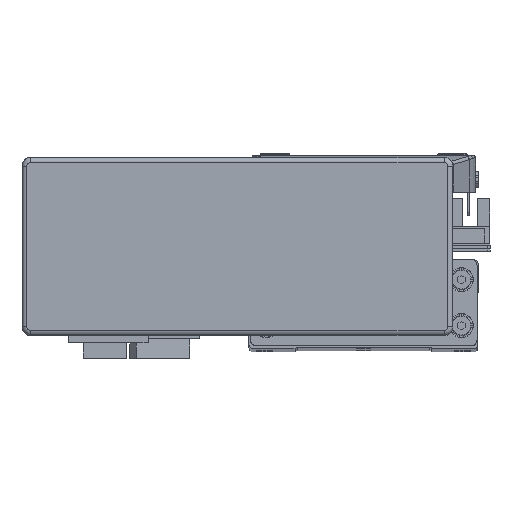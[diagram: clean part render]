
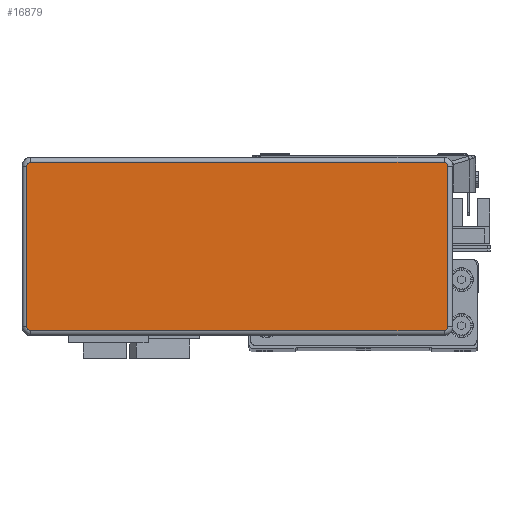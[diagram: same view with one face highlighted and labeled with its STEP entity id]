
A CAD part, top view. The second image highlights one B-rep face of the part: STEP entity #16879.
In plain terms, the highlighted planar face has unit normal (0, 0, 1) as drawn and (0, 0, -1) by its records, which use the part's own axes.
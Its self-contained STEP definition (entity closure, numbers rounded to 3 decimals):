
#1605 = VERTEX_POINT ( 'NONE', #14653 ) ;
#1614 = VERTEX_POINT ( 'NONE', #14632 ) ;
#1646 = VERTEX_POINT ( 'NONE', #14595 ) ;
#1670 = VERTEX_POINT ( 'NONE', #14734 ) ;
#1686 = VERTEX_POINT ( 'NONE', #14765 ) ;
#1688 = VERTEX_POINT ( 'NONE', #14767 ) ;
#1690 = VERTEX_POINT ( 'NONE', #14700 ) ;
#1694 = VERTEX_POINT ( 'NONE', #14695 ) ;
#3235 = AXIS2_PLACEMENT_3D ( 'NONE', #42827, #42798, #42829 ) ;
#3246 = AXIS2_PLACEMENT_3D ( 'NONE', #42979, #42986, #42981 ) ;
#3276 = AXIS2_PLACEMENT_3D ( 'NONE', #42933, #42837, #42878 ) ;
#3289 = AXIS2_PLACEMENT_3D ( 'NONE', #42750, #42747, #42755 ) ;
#12038 = CARTESIAN_POINT ( 'NONE',  ( 71.995, -27.995, -32.2 ) ) ;
#12060 = PLANE ( 'NONE',  #15995 ) ;
#12102 = DIRECTION ( 'NONE',  ( 1., 0., 0. ) ) ;
#12117 = DIRECTION ( 'NONE',  ( 0., 0., 1. ) ) ;
#12898 = ORIENTED_EDGE ( 'NONE', *, *, #28086, .T. ) ;
#12928 = ORIENTED_EDGE ( 'NONE', *, *, #28030, .T. ) ;
#12942 = ORIENTED_EDGE ( 'NONE', *, *, #28006, .T. ) ;
#12944 = ORIENTED_EDGE ( 'NONE', *, *, #28040, .T. ) ;
#12950 = ORIENTED_EDGE ( 'NONE', *, *, #28049, .T. ) ;
#12956 = ORIENTED_EDGE ( 'NONE', *, *, #28020, .T. ) ;
#12974 = ORIENTED_EDGE ( 'NONE', *, *, #28001, .T. ) ;
#12980 = ORIENTED_EDGE ( 'NONE', *, *, #27998, .T. ) ;
#14595 = CARTESIAN_POINT ( 'NONE',  ( -73.295, 27.995, -32.2 ) ) ;
#14632 = CARTESIAN_POINT ( 'NONE',  ( -71.995, -29.295, -32.2 ) ) ;
#14653 = CARTESIAN_POINT ( 'NONE',  ( 73.295, -27.995, -32.2 ) ) ;
#14695 = CARTESIAN_POINT ( 'NONE',  ( 71.995, 29.295, -32.2 ) ) ;
#14700 = CARTESIAN_POINT ( 'NONE',  ( 71.995, -29.295, -32.2 ) ) ;
#14734 = CARTESIAN_POINT ( 'NONE',  ( 73.295, 27.995, -32.2 ) ) ;
#14765 = CARTESIAN_POINT ( 'NONE',  ( -73.295, -27.995, -32.2 ) ) ;
#14767 = CARTESIAN_POINT ( 'NONE',  ( -71.995, 29.295, -32.2 ) ) ;
#15995 = AXIS2_PLACEMENT_3D ( 'NONE', #12038, #12117, #12102 ) ;
#16879 = ADVANCED_FACE ( 'NONE', ( #20303 ), #12060, .F. ) ;
#20303 = FACE_OUTER_BOUND ( 'NONE', #44654, .T. ) ;
#27998 = EDGE_CURVE ( 'NONE', #1614, #1686, #32426, .T. ) ;
#28001 = EDGE_CURVE ( 'NONE', #1690, #1614, #32410, .T. ) ;
#28006 = EDGE_CURVE ( 'NONE', #1694, #1670, #32420, .T. ) ;
#28020 = EDGE_CURVE ( 'NONE', #1646, #1688, #32402, .T. ) ;
#28030 = EDGE_CURVE ( 'NONE', #1688, #1694, #32454, .T. ) ;
#28040 = EDGE_CURVE ( 'NONE', #1605, #1690, #32512, .T. ) ;
#28049 = EDGE_CURVE ( 'NONE', #1670, #1605, #32509, .T. ) ;
#28086 = EDGE_CURVE ( 'NONE', #1686, #1646, #32541, .T. ) ;
#32402 = CIRCLE ( 'NONE', #3276, 1.3 ) ;
#32410 = LINE ( 'NONE', #42730, #32442 ) ;
#32420 = CIRCLE ( 'NONE', #3235, 1.3 ) ;
#32426 = CIRCLE ( 'NONE', #3289, 1.3 ) ;
#32442 = VECTOR ( 'NONE', #42787, 1000. ) ;
#32454 = LINE ( 'NONE', #42886, #32480 ) ;
#32480 = VECTOR ( 'NONE', #42873, 1000. ) ;
#32493 = VECTOR ( 'NONE', #43087, 1000. ) ;
#32509 = LINE ( 'NONE', #43062, #32493 ) ;
#32512 = CIRCLE ( 'NONE', #3246, 1.3 ) ;
#32538 = VECTOR ( 'NONE', #43314, 1000. ) ;
#32541 = LINE ( 'NONE', #43336, #32538 ) ;
#42730 = CARTESIAN_POINT ( 'NONE',  ( 71.995, -29.295, -32.2 ) ) ;
#42747 = DIRECTION ( 'NONE',  ( 0., 0., -1. ) ) ;
#42750 = CARTESIAN_POINT ( 'NONE',  ( -71.995, -27.995, -32.2 ) ) ;
#42755 = DIRECTION ( 'NONE',  ( 1., 0., 0. ) ) ;
#42787 = DIRECTION ( 'NONE',  ( -1., 0., 0. ) ) ;
#42798 = DIRECTION ( 'NONE',  ( 0., 0., -1. ) ) ;
#42827 = CARTESIAN_POINT ( 'NONE',  ( 71.995, 27.995, -32.2 ) ) ;
#42829 = DIRECTION ( 'NONE',  ( 1., 0., 0. ) ) ;
#42837 = DIRECTION ( 'NONE',  ( 0., 0., -1. ) ) ;
#42873 = DIRECTION ( 'NONE',  ( 1., 0., 0. ) ) ;
#42878 = DIRECTION ( 'NONE',  ( 1., 0., 0. ) ) ;
#42886 = CARTESIAN_POINT ( 'NONE',  ( 71.995, 29.295, -32.2 ) ) ;
#42933 = CARTESIAN_POINT ( 'NONE',  ( -71.995, 27.995, -32.2 ) ) ;
#42979 = CARTESIAN_POINT ( 'NONE',  ( 71.995, -27.995, -32.2 ) ) ;
#42981 = DIRECTION ( 'NONE',  ( 1., 0., 0. ) ) ;
#42986 = DIRECTION ( 'NONE',  ( 0., 0., -1. ) ) ;
#43062 = CARTESIAN_POINT ( 'NONE',  ( 73.295, -27.995, -32.2 ) ) ;
#43087 = DIRECTION ( 'NONE',  ( 0., -1., 0. ) ) ;
#43314 = DIRECTION ( 'NONE',  ( 0., 1., 0. ) ) ;
#43336 = CARTESIAN_POINT ( 'NONE',  ( -73.295, -27.995, -32.2 ) ) ;
#44654 = EDGE_LOOP ( 'NONE', ( #12950, #12944, #12974, #12980, #12898, #12956, #12928, #12942 ) ) ;
